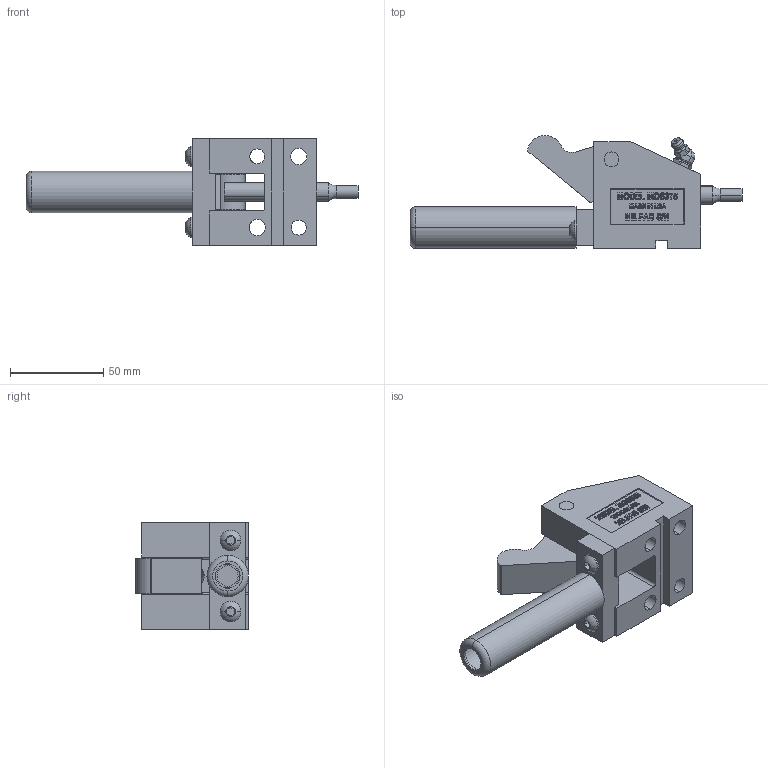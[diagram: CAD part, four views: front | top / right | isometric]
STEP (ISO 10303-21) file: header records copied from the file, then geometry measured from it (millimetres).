
FILE_DESCRIPTION (( 'STEP AP214' ), '1' );
FILE_NAME ('MOS37545-O.STEP', '2014-01-07T19:46:26', ( 'user' ), ( '' ), 'SwSTEP 2.0', 'SolidWorks 2009', '' );
FILE_SCHEMA (( 'AUTOMOTIVE_DESIGN' ));
Length unit declared in the file: inch
Products named in the file (1): MOS37545-O
Bounding box: 177.8 x 60.43 x 57.15 mm (x, y, z)
Surface area: 50209.9 mm2 (no closed solid volume)
Topology: 0 solids, 10 shells, 484 faces, 1482 edges, 992 vertices
Faces by surface type: plane 283, bspline 103, cylinder 64, torus 20, cone 10, sphere 4
Entity records: 28734 total; most frequent: CARTESIAN_POINT 10086, ORIENTED_EDGE 2642, DIRECTION 2120, EDGE_CURVE 1482, VERTEX_POINT 992, VECTOR 978, LINE 978, AXIS2_PLACEMENT_3D 571
